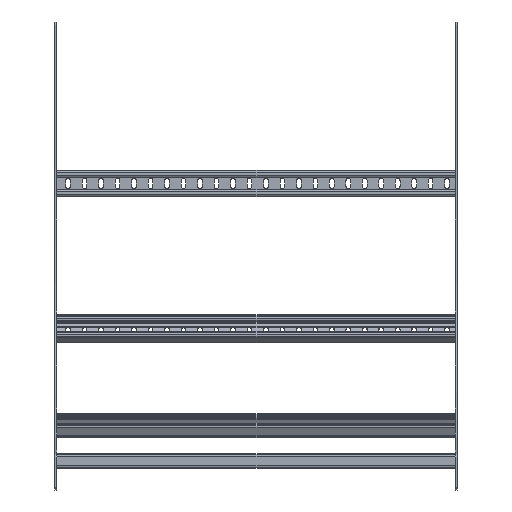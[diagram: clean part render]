
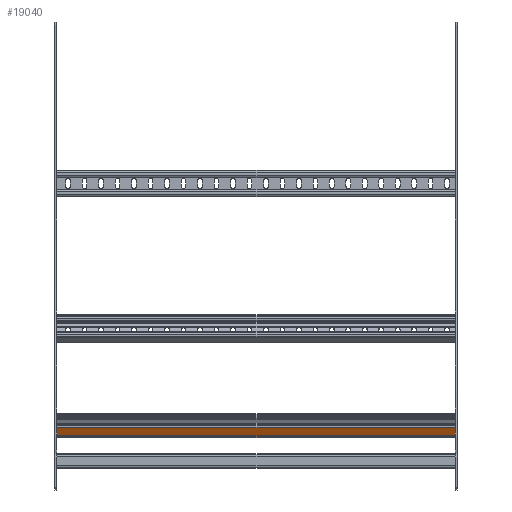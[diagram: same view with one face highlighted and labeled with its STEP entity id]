
A CAD part, front view. The second image highlights one B-rep face of the part: STEP entity #19040.
In plain terms, the highlighted planar face has unit normal (0, -0.866, -0.5) as drawn and (-1, 0, 0) by its records, which use the part's own axes.
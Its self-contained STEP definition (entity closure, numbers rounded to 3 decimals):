
#16140=CARTESIAN_POINT('',(0.,896.5,-202.5));
#16150=VERTEX_POINT('',#16140);
#16180=CARTESIAN_POINT('',(0.,0.,-202.5));
#16190=DIRECTION('',(0.,1.,0.));
#16200=VECTOR('',#16190,1.);
#16210=LINE('',#16180,#16200);
#16220=CARTESIAN_POINT('',(0.,881.5,-202.5));
#16230=VERTEX_POINT('',#16220);
#16240=EDGE_CURVE('',#16230,#16150,#16210,.T.);
#18740=CARTESIAN_POINT('',(0.,878.,40.));
#18750=DIRECTION('',(-1.,0.,0.));
#18760=DIRECTION('',(0.,1.,0.));
#18770=AXIS2_PLACEMENT_3D('',#18740,#18750,#18760);
#18780=PLANE('',#18770);
#18790=CARTESIAN_POINT('',(0.,881.5,40.));
#18800=DIRECTION('',(0.,0.,1.));
#18810=VECTOR('',#18800,1.);
#18820=LINE('',#18790,#18810);
#18830=CARTESIAN_POINT('',(0.,881.5,402.5));
#18840=VERTEX_POINT('',#18830);
#18850=EDGE_CURVE('',#16230,#18840,#18820,.T.);
#18860=ORIENTED_EDGE('',*,*,#18850,.T.);
#18870=ORIENTED_EDGE('',*,*,#16240,.F.);
#18880=CARTESIAN_POINT('',(0.,896.5,40.));
#18890=DIRECTION('',(0.,0.,1.));
#18900=VECTOR('',#18890,1.);
#18910=LINE('',#18880,#18900);
#18920=CARTESIAN_POINT('',(0.,896.5,402.5));
#18930=VERTEX_POINT('',#18920);
#18940=EDGE_CURVE('',#16150,#18930,#18910,.T.);
#18950=ORIENTED_EDGE('',*,*,#18940,.F.);
#18960=CARTESIAN_POINT('',(0.,0.,402.5));
#18970=DIRECTION('',(0.,-1.,0.));
#18980=VECTOR('',#18970,1.);
#18990=LINE('',#18960,#18980);
#19000=EDGE_CURVE('',#18930,#18840,#18990,.T.);
#19010=ORIENTED_EDGE('',*,*,#19000,.F.);
#19020=EDGE_LOOP('',(#19010,#18950,#18870,#18860));
#19030=FACE_OUTER_BOUND('',#19020,.T.);
#19040=ADVANCED_FACE('',(#19030),#18780,.T.);
